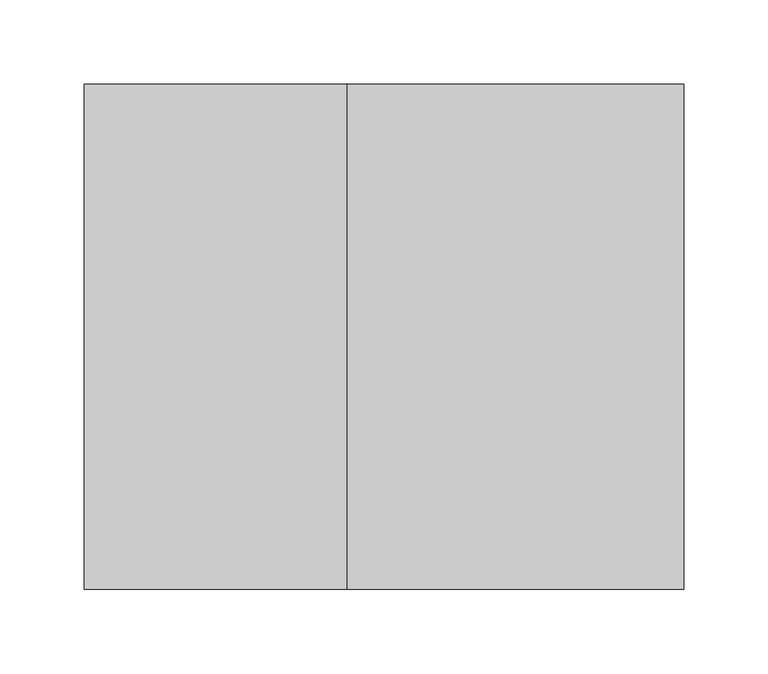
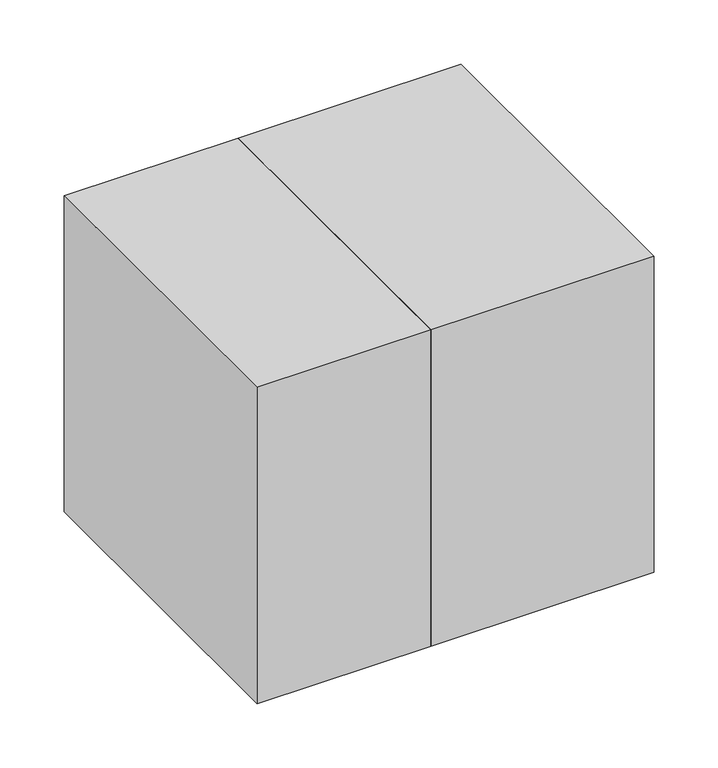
"""IFC4 building model written with IfcOpenShell, lengths in millimetres: duct fitting geometry, BL_ВрезкаВоздуховодов_Прямоугольная : BL_ВрезкаВоздуховодов_Прямоугольная."""

from ifc_helpers import new_model, si_unit, frame, origin, place, context, project, spatial, polyline, outline, extrude, source, transform, mapped, element, save


def duct_fitting_4595d778(model_context):
    return source(origin(), model_context, "Body", "SweptSolid", [
        extrude(outline(polyline([(200.0, -150.0), (0.0, -150.0), (0.0, 150.0), (200.0, 150.0), (200.0, -150.0)])), frame((0.0, 0.0, -150.0), z_axis=(0.0, 0.0, 1.0), x_axis=(1.0, 0.0, 0.0)), (0.0, 0.0, 1.0), 300.0),
        extrude(outline(polyline([(0.0, -150.0), (-156.096, -150.0), (-156.096, 150.0), (0.0, 150.0), (0.0, -150.0)])), frame((0.0, 0.0, -150.0), z_axis=(0.0, 0.0, 1.0), x_axis=(1.0, 0.0, 0.0)), (0.0, 0.0, 1.0), 300.0),
    ])


if __name__ == "__main__":
    model = new_model("IFC4")
    model_context = context("Model", 3, world=origin())
    ifc_project = project(units=[si_unit("LENGTHUNIT", "METRE", prefix="MILLI")], contexts=[model_context])
    site = spatial("IfcSite", under=ifc_project)
    building = spatial("IfcBuilding", under=site)
    placement = place(None, origin())
    duct_fitting_shape = duct_fitting_4595d778(model_context)
    element("IfcDuctFitting", 1, ObjectType="BL_ВрезкаВоздуховодов_Прямоугольная : BL_ВрезкаВоздуховодов_Прямоугольная", at=placement, inside=building, context=model_context, shape_type="MappedRepresentation", body=[
        mapped(duct_fitting_shape, transform((0.0, 0.0, 0.0), x_axis=(1.0, 0.0, 0.0), y_axis=(0.0, 1.0, 0.0), z_axis=(0.0, 0.0, 1.0))),
    ])
    save(model, "model.ifc")
